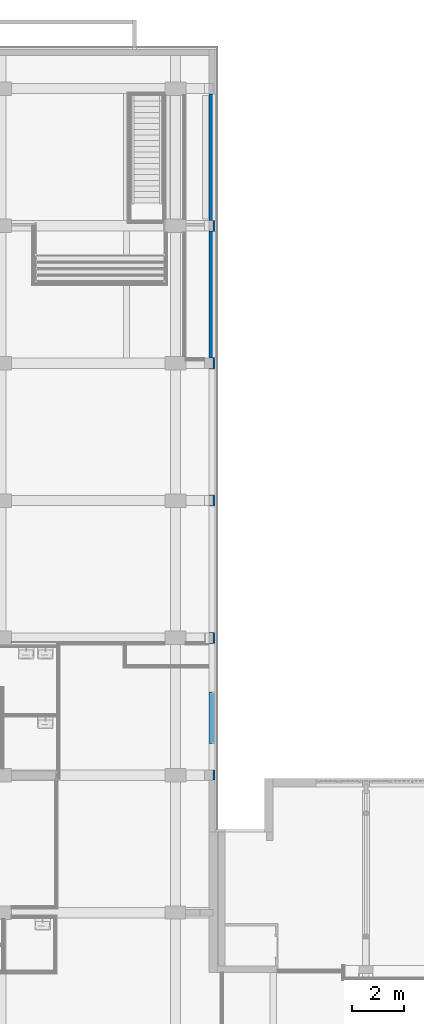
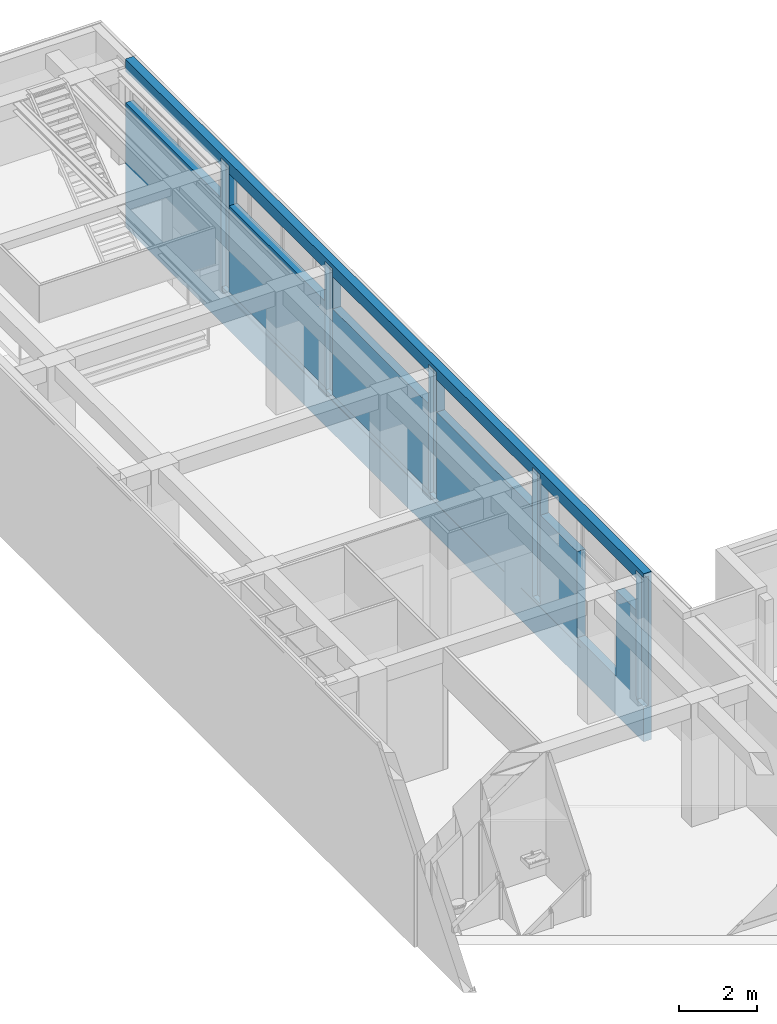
# One storey, part 77 of 135: 1 wall, 6 openings.
"""IFC2X3 building model written with IfcOpenShell, lengths in millimetres."""

from ifc_helpers import new_model, entity, si_unit, converted_unit, derived_unit, money_unit, direction, frame, origin_with_axes, place, context, subcontext, project, spatial, faceted_brep, material, type_object, element, save


model = new_model("IFC2X3")

# Units and contexts
model_context = context("Model", 3, precision=0.01, world=origin_with_axes(), true_north=direction((0.0, 1.0)))
body_context = subcontext(model_context, "Body", "Model", "MODEL_VIEW")
ifc_project = project(units=[si_unit("LENGTHUNIT", "METRE", prefix="MILLI"), si_unit("AREAUNIT", "SQUARE_METRE"), si_unit("VOLUMEUNIT", "CUBIC_METRE"), converted_unit("PLANEANGLEUNIT", "DEGREE", entity("IfcPlaneAngleMeasure", 0.0174532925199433), si_unit("PLANEANGLEUNIT", "RADIAN"), dimensions=[0, 0, 0, 0, 0, 0, 0]), money_unit("EUR"), converted_unit("TIMEUNIT", "Year", entity("IfcTimeMeasure", 31557600.0), si_unit("TIMEUNIT", "SECOND"), dimensions=[0, 0, 1, 0, 0, 0, 0]), si_unit("MASSUNIT", "GRAM", prefix="KILO"), si_unit("THERMODYNAMICTEMPERATUREUNIT", "DEGREE_CELSIUS"), si_unit("LUMINOUSINTENSITYUNIT", "LUMEN"), si_unit("ENERGYUNIT", "JOULE", prefix="MEGA"), derived_unit("THERMALCONDUCTANCEUNIT", [(si_unit("POWERUNIT", "WATT"), 1), (si_unit("LENGTHUNIT", "METRE"), -1), (si_unit("THERMODYNAMICTEMPERATUREUNIT", "KELVIN"), -1)]), derived_unit("SPECIFICHEATCAPACITYUNIT", [(si_unit("ENERGYUNIT", "JOULE"), 1), (si_unit("MASSUNIT", "GRAM", prefix="KILO"), -1), (si_unit("THERMODYNAMICTEMPERATUREUNIT", "KELVIN"), -1)]), derived_unit("MASSDENSITYUNIT", [(si_unit("MASSUNIT", "GRAM", prefix="KILO"), 1), (si_unit("VOLUMEUNIT", "CUBIC_METRE"), -1)])], contexts=[model_context])

# Site, building, storey
site_placement = place(None, origin_with_axes())
site = spatial("IfcSite", under=ifc_project, at=site_placement, Name="Site", CompositionType="ELEMENT")
building_placement = place(site_placement, origin_with_axes())
building = spatial("IfcBuilding", under=site, at=building_placement, Name="Naam gebouw", CompositionType="ELEMENT")
storey_placement = place(building_placement, origin_with_axes())
storey = spatial("IfcBuildingStorey", under=building, at=storey_placement, Name="Begane grond N", CompositionType="ELEMENT", Elevation=0.0)

# Wall, openings
ifc_material = material(Name="ALG - CONSTRUCTIEF")
wall_type = type_object("IfcWallType", Name="ALG - CONSTRUCTIEF 240", PredefinedType="NOTDEFINED")
wall_placement = place(storey_placement, frame((29906.0, 54390.91242510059, -1200.0), z_axis=(0.0, 0.0, 1.0), x_axis=(0.0, -1.0, 0.0)))
wall = element("IfcWall", 1, at=wall_placement, inside=storey, type_object=wall_type, material=ifc_material, Name="_Wand-x", context=body_context, shape_type="Brep", body=[
    faceted_brep([(23204.99999999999, 0.0, 3900.000000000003), (23204.99999999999, 229.9999999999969, 3900.000000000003), (23204.99999999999, 239.9999999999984, 3900.000000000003), (21319.99999999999, 239.9999999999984, 3900.000000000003), (21319.99999999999, 0.0, 3900.000000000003), (23204.99999999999, 0.0, 1200.0), (23204.99999999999, 4.670124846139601, 1200.0), (23204.99999999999, 239.9999999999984, 1200.0), (26609.99999999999, 239.9999999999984, 5270.000000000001), (26609.99999999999, 239.9999999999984, 0.0), (0.0, 239.9999999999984, 0.0), (0.0, 240.000000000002, 3900.0), (4899.999999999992, 240.000000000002, 3900.0), (4899.999999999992, 240.000000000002, 4900.0), (0.0, 240.000000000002, 4900.0), (0.0, 240.000000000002, 5270.000000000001), (20889.99999999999, 239.9999999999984, 4900.0), (15989.99999999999, 239.9999999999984, 4900.0), (15989.99999999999, 239.9999999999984, 3900.0), (20889.99999999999, 239.9999999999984, 3900.0), (10660.0, 239.9999999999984, 3900.0), (15559.99999999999, 239.9999999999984, 3900.0), (15559.99999999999, 239.9999999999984, 4900.0), (10660.0, 239.9999999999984, 4900.0), (10229.99999999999, 240.000000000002, 4900.0), (5329.999999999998, 240.000000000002, 4900.0), (5329.999999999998, 240.000000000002, 3900.0), (10229.99999999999, 240.000000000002, 3900.0), (25204.99999999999, 239.9999999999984, 1200.0), (25204.99999999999, 239.9999999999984, 3900.000000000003), (26219.99999999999, 239.9999999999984, 3900.000000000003), (26219.99999999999, 239.9999999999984, 4900.000000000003), (21319.99999999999, 239.9999999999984, 4900.000000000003), (21319.99999999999, 0.0, 4900.000000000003), (26219.99999999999, 0.0, 4900.000000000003), (26219.99999999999, 0.0, 3900.000000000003), (25204.99999999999, 0.0, 3900.000000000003), (25204.99999999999, 0.0, 1200.0), (26234.99999999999, 0.0, 1200.0), (26234.99999999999, 0.0, 5150.0), (26609.99999999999, 0.0, 5150.0), (26609.99999999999, 0.0, 5270.000000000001), (0.0, 0.0, 5270.000000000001), (0.0, 0.0, 4900.0), (4899.999999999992, 0.0, 4900.0), (4899.999999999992, 0.0, 3900.0), (0.0, 0.0, 3900.0), (0.0, 0.0, 0.0), (26609.99999999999, 0.0, 0.0), (26609.99999999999, 0.0, 1000.0), (4914.999999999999, 0.0, 1000.0), (4914.999999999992, 0.0, 5150.0), (5314.999999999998, 0.0, 5150.0), (5314.999999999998, 0.0, 1200.0), (10244.99999999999, 0.0, 1200.0), (10244.99999999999, 0.0, 5150.0), (10645.0, 0.0, 5150.0), (10645.0, 0.0, 1200.0), (15574.99999999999, 0.0, 1200.0), (15574.99999999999, 0.0, 5150.0), (15974.99999999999, 0.0, 5150.0), (15974.99999999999, 0.0, 1200.0), (20904.99999999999, 0.0, 1200.0), (20904.99999999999, 0.0, 5150.0), (21304.99999999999, 0.0, 5150.0), (21304.99999999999, 0.0, 1200.0), (20889.99999999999, 0.0, 3900.0), (15989.99999999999, 0.0, 3900.0), (15989.99999999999, 0.0, 4900.0), (20889.99999999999, 0.0, 4900.0), (10660.0, 0.0, 4900.0), (15559.99999999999, 0.0, 4900.0), (15559.99999999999, 0.0, 3900.0), (10660.0, 0.0, 3900.0), (5329.999999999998, 0.0, 3900.0), (5329.999999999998, 0.0, 4900.0), (10229.99999999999, 0.0, 4900.0), (10229.99999999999, 0.0, 3900.0), (21304.99999999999, 7.276068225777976, 1200.0), (25204.99999999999, 1.927026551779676, 1200.0), (26609.99999999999, 149.9999999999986, 5150.0), (26609.99999999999, 149.9999999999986, 1100.0), (26609.99999999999, 0.0, 1100.0), (25204.99999999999, 229.9999999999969, 3900.000000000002), (26234.99999999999, 0.5143309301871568, 1200.0), (26234.99999999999, 149.9999999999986, 1100.0), (26234.99999999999, 149.9999999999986, 5150.0), (26234.99999999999, 0.5143309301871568, 1100.0), (4914.999999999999, 29.75575874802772, 1000.0), (4914.999999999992, 149.9999999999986, 1100.0), (4914.999999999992, 149.9999999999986, 5150.0), (4914.999999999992, 29.75575874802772, 1100.0), (5314.999999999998, 149.9999999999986, 5150.0), (5314.999999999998, 149.9999999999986, 1100.0), (5314.999999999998, 29.20713908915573, 1100.0), (5314.999999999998, 29.20713908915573, 1200.0), (10244.99999999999, 22.44540179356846, 1200.0), (10244.99999999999, 149.9999999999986, 1100.0), (10244.99999999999, 149.9999999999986, 5150.0), (10244.99999999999, 22.44540179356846, 1100.0), (10645.0, 149.9999999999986, 5150.0), (10645.0, 149.9999999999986, 1100.0), (10645.0, 21.89678213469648, 1100.0), (10645.0, 21.89678213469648, 1200.0), (15574.99999999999, 15.13504483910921, 1200.0), (15574.99999999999, 149.9999999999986, 1100.0), (15574.99999999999, 149.9999999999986, 5150.0), (15574.99999999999, 15.13504483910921, 1100.0), (15974.99999999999, 149.9999999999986, 5150.0), (15974.99999999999, 149.9999999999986, 1100.0), (15974.99999999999, 14.58642518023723, 1100.0), (15974.99999999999, 14.58642518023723, 1200.0), (20904.99999999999, 7.824687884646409, 1200.0), (20904.99999999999, 149.9999999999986, 1100.0), (20904.99999999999, 149.9999999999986, 5150.0), (20904.99999999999, 7.824687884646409, 1100.0), (21304.99999999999, 149.9999999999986, 5150.0), (21304.99999999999, 149.9999999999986, 1100.0), (21304.99999999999, 7.276068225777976, 1100.0)], [[[0, 1, 2, 3, 4]], [[1, 0, 5, 6, 7, 2]], [[8, 9, 10, 11, 12, 13, 14, 15], [16, 17, 18, 19], [20, 21, 22, 23], [24, 25, 26, 27], [3, 2, 7, 28, 29, 30, 31, 32]], [[4, 3, 32, 33]], [[5, 0, 4, 33, 34, 35, 36, 37, 38, 39, 40, 41, 42, 43, 44, 45, 46, 47, 48, 49, 50, 51, 52, 53, 54, 55, 56, 57, 58, 59, 60, 61, 62, 63, 64, 65], [66, 67, 68, 69], [70, 71, 72, 73], [74, 75, 76, 77]], [[6, 5, 65, 78]], [[6, 79, 28, 7]], [[9, 8, 41, 40, 80, 81, 82, 49, 48]], [[47, 10, 9, 48]], [[46, 11, 10, 47]], [[12, 11, 46, 45]], [[13, 12, 45, 44]], [[43, 14, 13, 44]], [[14, 43, 42, 15]], [[15, 42, 41, 8]], [[16, 69, 68, 17]], [[17, 68, 67, 18]], [[67, 66, 19, 18]], [[66, 69, 16, 19]], [[21, 20, 73, 72]], [[22, 21, 72, 71]], [[70, 23, 22, 71]], [[73, 20, 23, 70]], [[24, 76, 75, 25]], [[25, 75, 74, 26]], [[26, 74, 77, 27]], [[27, 77, 76, 24]], [[79, 37, 36, 83, 29, 28]], [[83, 36, 35, 30, 29]], [[31, 30, 35, 34]], [[33, 32, 31, 34]], [[37, 79, 84, 38]], [[85, 86, 39, 38, 84, 87]], [[40, 39, 86, 80]], [[50, 49, 88]], [[89, 90, 51, 50, 88, 91]], [[51, 90, 92, 52]], [[53, 52, 92, 93, 94, 95]], [[95, 96, 54, 53]], [[97, 98, 55, 54, 96, 99]], [[55, 98, 100, 56]], [[57, 56, 100, 101, 102, 103]], [[103, 104, 58, 57]], [[105, 106, 59, 58, 104, 107]], [[59, 106, 108, 60]], [[61, 60, 108, 109, 110, 111]], [[111, 112, 62, 61]], [[113, 114, 63, 62, 112, 115]], [[63, 114, 116, 64]], [[65, 64, 116, 117, 118, 78]], [[79, 6, 78, 118, 115, 112, 111, 110, 107, 104, 103, 102, 99, 96, 95, 94, 91, 88, 49, 82, 87, 84]], [[86, 85, 81, 80]], [[81, 85, 87, 82]], [[92, 90, 89, 93]], [[94, 93, 89, 91]], [[100, 98, 97, 101]], [[102, 101, 97, 99]], [[108, 106, 105, 109]], [[110, 109, 105, 107]], [[116, 114, 113, 117]], [[118, 117, 113, 115]]]),
])
opening_1_placement = place(wall_placement, frame((18439.99999999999, 0.0, 3900.0), z_axis=(0.0, 0.0, 1.0), x_axis=(1.0, 0.0, 0.0)))
element("IfcOpeningElement", 2, at=opening_1_placement, cuts=wall, Name="_", context=body_context, shape_type="Brep", body=[
    faceted_brep([(-2449.999999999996, 169.9999999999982, 0.0), (-2449.999999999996, 169.9999999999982, 1000.0), (-2449.999999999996, 241.0000000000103, 1000.0), (-2449.999999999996, 241.0000000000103, 0.0), (-2449.999999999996, -1.000000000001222, 0.0), (-2449.999999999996, -1.000000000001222, 1000.0), (2449.999999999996, 169.9999999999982, 1000.0), (2449.999999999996, 241.0000000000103, 1000.0), (2449.999999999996, -1.000000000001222, 1000.0), (2449.999999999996, 241.0000000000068, 0.0), (2449.999999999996, 169.9999999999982, 0.0), (2449.999999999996, -1.000000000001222, 0.0)], [[[0, 1, 2, 3]], [[1, 0, 4, 5]], [[6, 7, 2, 1, 5, 8]], [[7, 9, 3, 2]], [[0, 3, 9, 10, 11, 4]], [[5, 4, 11, 8]], [[6, 10, 9, 7]], [[10, 6, 8, 11]]]),
])
opening_2_placement = place(wall_placement, frame((7779.999999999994, 0.0, 3900.0), z_axis=(0.0, 0.0, 1.0), x_axis=(1.0, 0.0, 0.0)))
element("IfcOpeningElement", 3, at=opening_2_placement, cuts=wall, Name="_Merk-001", context=body_context, shape_type="Brep", body=[
    faceted_brep([(-2449.999999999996, -1.000000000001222, 1000.0), (-2449.999999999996, -1.000000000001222, 0.0), (2449.999999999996, -1.000000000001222, 0.0), (2449.999999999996, -1.000000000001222, 1000.0), (-2449.999999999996, 240.9999999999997, 1000.0), (-2449.999999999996, 240.9999999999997, 0.0), (2449.999999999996, 240.9999999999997, 0.0), (2449.999999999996, 240.9999999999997, 1000.0)], [[[0, 1, 2, 3]], [[4, 5, 1, 0]], [[5, 6, 2, 1]], [[6, 7, 3, 2]], [[7, 4, 0, 3]], [[6, 5, 4, 7]]]),
])
opening_3_placement = place(wall_placement, frame((2449.999999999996, 0.0, 3900.0), z_axis=(0.0, 0.0, 1.0), x_axis=(1.0, 0.0, 0.0)))
element("IfcOpeningElement", 4, at=opening_3_placement, cuts=wall, Name="_Merk-001", context=body_context, shape_type="Brep", body=[
    faceted_brep([(-2449.999999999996, -1.000000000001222, 1000.0), (-2449.999999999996, -1.000000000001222, 0.0), (2449.999999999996, -1.000000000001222, 0.0), (2449.999999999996, -1.000000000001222, 1000.0), (-2449.999999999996, 240.9999999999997, 1000.0), (-2449.999999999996, 240.9999999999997, 0.0), (2449.999999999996, 240.9999999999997, 0.0), (2449.999999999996, 240.9999999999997, 1000.0)], [[[0, 1, 2, 3]], [[4, 5, 1, 0]], [[5, 6, 2, 1]], [[6, 7, 3, 2]], [[7, 4, 0, 3]], [[6, 5, 4, 7]]]),
])
opening_4_placement = place(wall_placement, frame((13109.99999999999, 0.0, 3900.0), z_axis=(0.0, 0.0, 1.0), x_axis=(1.0, 0.0, 0.0)))
element("IfcOpeningElement", 5, at=opening_4_placement, cuts=wall, Name="_Merk-x", context=body_context, shape_type="Brep", body=[
    faceted_brep([(-2449.999999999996, 169.9999999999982, 0.0), (-2449.999999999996, 169.9999999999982, 1000.0), (-2449.999999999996, 241.0000000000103, 1000.0), (-2449.999999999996, 241.0000000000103, 0.0), (-2449.999999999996, -1.000000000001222, 0.0), (-2449.999999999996, -1.000000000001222, 1000.0), (2449.999999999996, 169.9999999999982, 1000.0), (2449.999999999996, 241.0000000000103, 1000.0), (2449.999999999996, -1.000000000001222, 1000.0), (2449.999999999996, 241.0000000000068, 0.0), (2449.999999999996, 169.9999999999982, 0.0), (2449.999999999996, -1.000000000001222, 0.0)], [[[0, 1, 2, 3]], [[1, 0, 4, 5]], [[6, 7, 2, 1, 5, 8]], [[7, 9, 3, 2]], [[0, 3, 9, 10, 11, 4]], [[5, 4, 11, 8]], [[6, 10, 9, 7]], [[10, 6, 8, 11]]]),
])
opening_5_placement = place(wall_placement, frame((24204.99999999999, 0.0, 1200.0), z_axis=(0.0, 0.0, 1.0), x_axis=(1.0, 0.0, 0.0)))
element("IfcOpeningElement", 6, at=opening_5_placement, cuts=wall, Name="_Merk-003", context=body_context, shape_type="Brep", body=[
    faceted_brep([(-1000.0, 229.9999999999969, 0.0), (-1000.0, 229.9999999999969, 3700.000000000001), (-1000.0, 240.9999999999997, 3700.000000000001), (-1000.0, 240.9999999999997, 0.0), (-1000.0, -1.000000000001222, 0.0), (-1000.0, -1.000000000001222, 3700.000000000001), (1000.0, 229.9999999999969, 3700.000000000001), (1000.0, 240.9999999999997, 3700.000000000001), (1000.0, -1.000000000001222, 3700.000000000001), (1000.0, 240.9999999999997, 0.0), (1000.0, 229.9999999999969, 0.0), (1000.0, -1.000000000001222, 0.0)], [[[0, 1, 2, 3]], [[1, 0, 4, 5]], [[6, 7, 2, 1, 5, 8]], [[7, 9, 3, 2]], [[0, 3, 9, 10, 11, 4]], [[5, 4, 11, 8]], [[6, 10, 9, 7]], [[10, 6, 8, 11]]]),
])
opening_6_placement = place(wall_placement, frame((23769.99999999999, 0.0, 3900.000000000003), z_axis=(0.0, 0.0, 1.0), x_axis=(1.0, 0.0, 0.0)))
element("IfcOpeningElement", 7, at=opening_6_placement, cuts=wall, Name="_Merk-x", context=body_context, shape_type="Brep", body=[
    faceted_brep([(-2449.999999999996, 169.9999999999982, 0.0), (-2449.999999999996, 169.9999999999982, 1000.0), (-2449.999999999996, 241.0000000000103, 1000.0), (-2449.999999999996, 241.0000000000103, 0.0), (-2449.999999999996, -1.000000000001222, 0.0), (-2449.999999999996, -1.000000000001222, 1000.0), (2449.999999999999, 169.9999999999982, 1000.0), (2449.999999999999, 241.0000000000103, 1000.0), (2449.999999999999, -1.000000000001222, 1000.0), (2449.999999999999, 241.0000000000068, 0.0), (2449.999999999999, 169.9999999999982, 0.0), (2449.999999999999, -1.000000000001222, 0.0)], [[[0, 1, 2, 3]], [[1, 0, 4, 5]], [[6, 7, 2, 1, 5, 8]], [[7, 9, 3, 2]], [[0, 3, 9, 10, 11, 4]], [[5, 4, 11, 8]], [[6, 10, 9, 7]], [[10, 6, 8, 11]]]),
])

save(model, "model.ifc")
